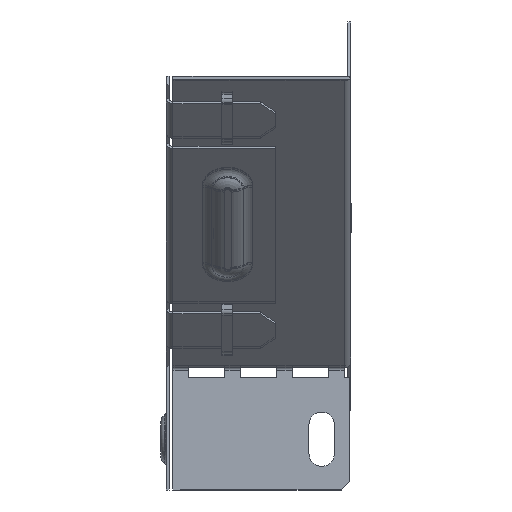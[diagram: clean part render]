
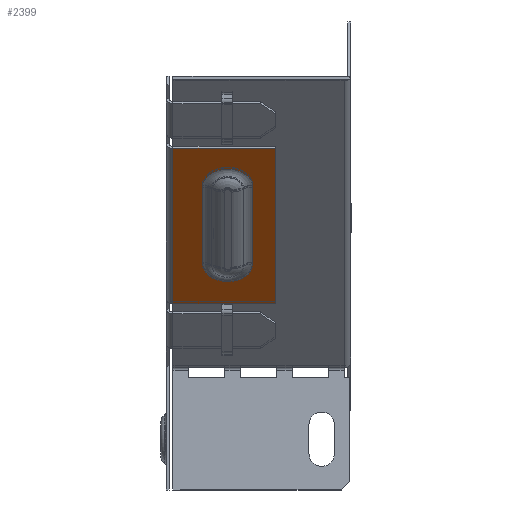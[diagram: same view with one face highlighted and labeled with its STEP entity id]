
A CAD part, left-side view. The second image highlights one B-rep face of the part: STEP entity #2399.
In plain terms, the highlighted planar face has unit normal (-0.707, 0, -0.707).
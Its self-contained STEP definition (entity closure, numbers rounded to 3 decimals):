
#42 = CARTESIAN_POINT ( 'NONE',  ( -76.206, 26.183, -45.472 ) ) ;
#304 = CARTESIAN_POINT ( 'NONE',  ( -86.823, 20., -34.855 ) ) ;
#493 = VERTEX_POINT ( 'NONE', #304 ) ;
#645 = LINE ( 'NONE', #6154, #11577 ) ;
#856 = EDGE_LOOP ( 'NONE', ( #8870, #16037, #7839, #8214 ) ) ;
#1110 = EDGE_CURVE ( 'NONE', #7462, #8384, #1184, .T. ) ;
#1184 = LINE ( 'NONE', #17682, #17931 ) ;
#1543 = AXIS2_PLACEMENT_3D ( 'NONE', #15460, #5379, #16831 ) ;
#2379 = CIRCLE ( 'NONE', #1543, 6.917 ) ;
#2399 = ADVANCED_FACE ( 'NONE', ( #7180, #15429 ), #11853, .F. ) ;
#2469 = CARTESIAN_POINT ( 'NONE',  ( -76.206, 33.1, -45.472 ) ) ;
#2637 = ORIENTED_EDGE ( 'NONE', *, *, #17461, .T. ) ;
#2751 = EDGE_LOOP ( 'NONE', ( #6685, #12868, #4644, #2637 ) ) ;
#2760 = VERTEX_POINT ( 'NONE', #15702 ) ;
#3398 = DIRECTION ( 'NONE',  ( 0.707, 0., -0.707 ) ) ;
#3408 = DIRECTION ( 'NONE',  ( -0.707, 0., 0.707 ) ) ;
#3450 = DIRECTION ( 'NONE',  ( 0., -1., 0. ) ) ;
#3468 = VECTOR ( 'NONE', #8998, 1000. ) ;
#4032 = EDGE_CURVE ( 'NONE', #2760, #10105, #645, .T. ) ;
#4522 = DIRECTION ( 'NONE',  ( 0., 1., 0. ) ) ;
#4524 = VECTOR ( 'NONE', #3408, 1000. ) ;
#4535 = CARTESIAN_POINT ( 'NONE',  ( -54.993, 40.017, -66.685 ) ) ;
#4644 = ORIENTED_EDGE ( 'NONE', *, *, #4994, .T. ) ;
#4906 = CARTESIAN_POINT ( 'NONE',  ( -54.993, 40.017, -66.685 ) ) ;
#4987 = CARTESIAN_POINT ( 'NONE',  ( -53.337, 50., -68.341 ) ) ;
#4994 = EDGE_CURVE ( 'NONE', #8144, #7996, #5268, .T. ) ;
#5268 = LINE ( 'NONE', #4906, #3468 ) ;
#5379 = DIRECTION ( 'NONE',  ( 0.707, 0., 0.707 ) ) ;
#5395 = DIRECTION ( 'NONE',  ( 0.5, -0.707, -0.5 ) ) ;
#6154 = CARTESIAN_POINT ( 'NONE',  ( -44.022, 20., -77.656 ) ) ;
#6592 = LINE ( 'NONE', #13170, #7918 ) ;
#6685 = ORIENTED_EDGE ( 'NONE', *, *, #1110, .T. ) ;
#6902 = EDGE_CURVE ( 'NONE', #8384, #8144, #2379, .T. ) ;
#7180 = FACE_BOUND ( 'NONE', #2751, .T. ) ;
#7461 = CARTESIAN_POINT ( 'NONE',  ( -86.823, 48.2, -34.855 ) ) ;
#7462 = VERTEX_POINT ( 'NONE', #42 ) ;
#7839 = ORIENTED_EDGE ( 'NONE', *, *, #8283, .T. ) ;
#7918 = VECTOR ( 'NONE', #4522, 1000. ) ;
#7996 = VERTEX_POINT ( 'NONE', #10855 ) ;
#8144 = VERTEX_POINT ( 'NONE', #4535 ) ;
#8214 = ORIENTED_EDGE ( 'NONE', *, *, #9567, .T. ) ;
#8283 = EDGE_CURVE ( 'NONE', #10105, #493, #10564, .T. ) ;
#8384 = VERTEX_POINT ( 'NONE', #10645 ) ;
#8660 = VECTOR ( 'NONE', #8775, 1000. ) ;
#8775 = DIRECTION ( 'NONE',  ( -0.707, 0., 0.707 ) ) ;
#8870 = ORIENTED_EDGE ( 'NONE', *, *, #15321, .F. ) ;
#8998 = DIRECTION ( 'NONE',  ( -0.707, 0., 0.707 ) ) ;
#9115 = DIRECTION ( 'NONE',  ( 0.707, 0., -0.707 ) ) ;
#9194 = VERTEX_POINT ( 'NONE', #7461 ) ;
#9451 = AXIS2_PLACEMENT_3D ( 'NONE', #2469, #11065, #5395 ) ;
#9567 = EDGE_CURVE ( 'NONE', #493, #9194, #6592, .T. ) ;
#10105 = VERTEX_POINT ( 'NONE', #10302 ) ;
#10302 = CARTESIAN_POINT ( 'NONE',  ( -44.022, 20., -77.656 ) ) ;
#10564 = LINE ( 'NONE', #17692, #4524 ) ;
#10645 = CARTESIAN_POINT ( 'NONE',  ( -54.993, 26.183, -66.685 ) ) ;
#10855 = CARTESIAN_POINT ( 'NONE',  ( -76.206, 40.017, -45.472 ) ) ;
#10882 = LINE ( 'NONE', #17302, #8660 ) ;
#11065 = DIRECTION ( 'NONE',  ( 0.707, 0., 0.707 ) ) ;
#11577 = VECTOR ( 'NONE', #3450, 1000. ) ;
#11853 = PLANE ( 'NONE',  #12404 ) ;
#12404 = AXIS2_PLACEMENT_3D ( 'NONE', #4987, #14945, #9115 ) ;
#12868 = ORIENTED_EDGE ( 'NONE', *, *, #6902, .T. ) ;
#13170 = CARTESIAN_POINT ( 'NONE',  ( -86.823, 20., -34.855 ) ) ;
#14945 = DIRECTION ( 'NONE',  ( 0.707, 0., 0.707 ) ) ;
#15321 = EDGE_CURVE ( 'NONE', #2760, #9194, #10882, .T. ) ;
#15429 = FACE_OUTER_BOUND ( 'NONE', #856, .T. ) ;
#15460 = CARTESIAN_POINT ( 'NONE',  ( -54.993, 33.1, -66.685 ) ) ;
#15702 = CARTESIAN_POINT ( 'NONE',  ( -44.022, 48.2, -77.656 ) ) ;
#15803 = CIRCLE ( 'NONE', #9451, 6.917 ) ;
#16037 = ORIENTED_EDGE ( 'NONE', *, *, #4032, .T. ) ;
#16831 = DIRECTION ( 'NONE',  ( 0.5, -0.707, -0.5 ) ) ;
#17302 = CARTESIAN_POINT ( 'NONE',  ( -103.087, 48.2, -18.591 ) ) ;
#17461 = EDGE_CURVE ( 'NONE', #7996, #7462, #15803, .T. ) ;
#17682 = CARTESIAN_POINT ( 'NONE',  ( -54.993, 26.183, -66.685 ) ) ;
#17692 = CARTESIAN_POINT ( 'NONE',  ( -53.337, 20., -68.341 ) ) ;
#17931 = VECTOR ( 'NONE', #3398, 1000. ) ;
